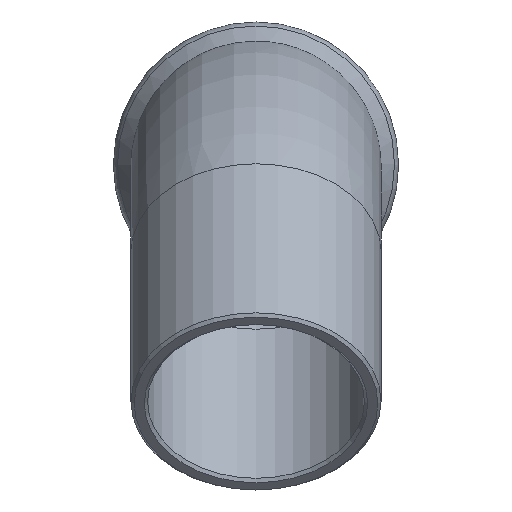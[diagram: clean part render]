
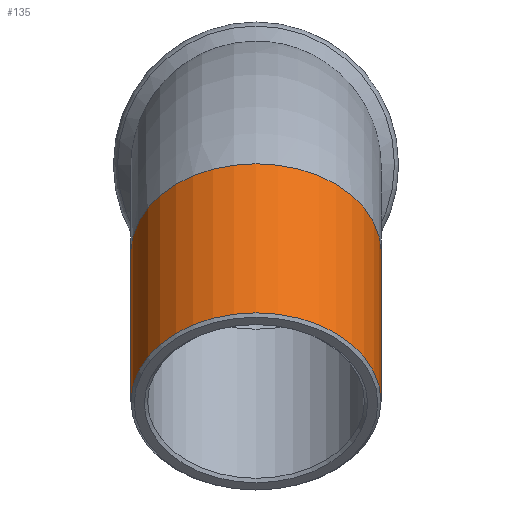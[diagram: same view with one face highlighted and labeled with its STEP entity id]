
A CAD part, top view. The second image highlights one B-rep face of the part: STEP entity #135.
In plain terms, the highlighted cylindrical face has radius 7.935 mm (diameter 15.87 mm), a full revolution.
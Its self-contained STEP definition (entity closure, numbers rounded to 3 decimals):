
#84=CARTESIAN_POINT('',(-7.935,4.031,22.981));
#85=VERTEX_POINT('',#84);
#86=CARTESIAN_POINT('',(0.0,4.031,22.981));
#87=DIRECTION('',(0.0,-0.707,0.707));
#88=DIRECTION('',(1.0,0.0,0.0));
#89=AXIS2_PLACEMENT_3D('',#86,#87,#88);
#90=CIRCLE('',#89,7.935);
#91=EDGE_CURVE('',#85,#85,#90,.T.);
#116=CARTESIAN_POINT('',(0.0,13.506,13.506));
#117=DIRECTION('',(0.0,-0.707,0.707));
#118=DIRECTION('',(1.0,0.0,0.0));
#119=AXIS2_PLACEMENT_3D('',#116,#117,#118);
#120=CYLINDRICAL_SURFACE('',#119,7.935);
#121=CARTESIAN_POINT('',(7.935,13.506,13.506));
#122=VERTEX_POINT('',#121);
#123=CARTESIAN_POINT('',(0.0,13.506,13.506));
#124=DIRECTION('',(0.0,0.707,-0.707));
#125=DIRECTION('',(-1.0,0.0,0.0));
#126=AXIS2_PLACEMENT_3D('',#123,#124,#125);
#127=CIRCLE('',#126,7.935);
#128=EDGE_CURVE('',#122,#122,#127,.T.);
#129=ORIENTED_EDGE('',*,*,#128,.F.);
#130=EDGE_LOOP('',(#129));
#131=FACE_OUTER_BOUND('',#130,.T.);
#132=ORIENTED_EDGE('',*,*,#91,.F.);
#133=EDGE_LOOP('',(#132));
#134=FACE_BOUND('',#133,.T.);
#135=ADVANCED_FACE('',(#131,#134),#120,.T.);
